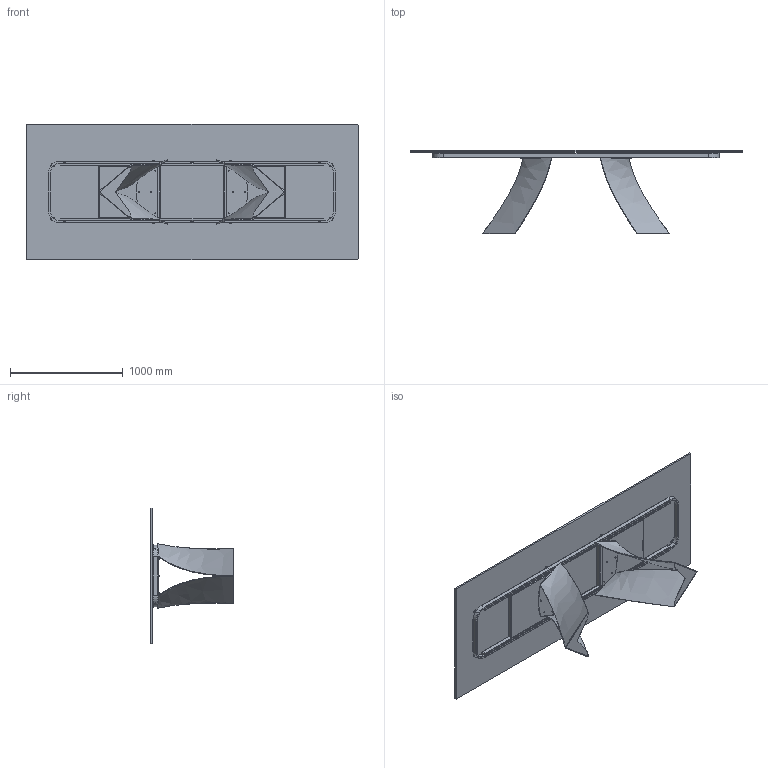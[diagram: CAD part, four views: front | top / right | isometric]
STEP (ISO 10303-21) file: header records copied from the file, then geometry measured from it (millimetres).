
FILE_DESCRIPTION (( 'STEP AP203' ), '1' );
FILE_NAME ('TW29G.STEP', '2024-08-07T12:36:25', ( '' ), ( '' ), 'SwSTEP 2.0', 'SolidWorks 2022', '' );
FILE_SCHEMA (( 'CONFIG_CONTROL_DESIGN' ));
Length unit declared in the file: millimetre
Products named in the file (10): PIEDINO PLASTICA PER TWIST; rondella M8_8X16; M8xXXmm_M8x20mm; 434070-00-PIEDINO TPV GOMMA NERO D. 30x8max18; TWS000000BAS-00-TWIST BASE GREZZA; TTAX03_02-00-VASSOIO IRRIGIDIMENTO TELAIO TWIST 300; TTAV10-00-TELAIO X TAVOLO TWIST 300 320cm; TTAX03_01-00-TELAIO UNIVERSALE X TWIST 300 320cm_Default<A macchina>; C2XCRXX-00-Piani Rettangolari Cristallo_29 2950x1200; TW29G
Assembly tree (43 placements, depth 3):
  TW29G
    C2XCRXX-00-Piani Rettangolari Cristallo_29 2950x1200
    TWS000000BAS-00-TWIST BASE GREZZA  x2
    TTAV10-00-TELAIO X TAVOLO TWIST 300 320cm
      TTAX03_01-00-TELAIO UNIVERSALE X TWIST 300 320cm_Default<A macchina>
      TTAX03_02-00-VASSOIO IRRIGIDIMENTO TELAIO TWIST 300  x2
    M8xXXmm_M8x20mm  x12
    rondella M8_8X16  x12
    434070-00-PIEDINO TPV GOMMA NERO D. 30x8max18  x8
    PIEDINO PLASTICA PER TWIST  x4
Bounding box: 2950 x 740.37 x 1200 mm (x, y, z)
Volume: 66684580.5 mm3; surface area: 13280877.2 mm2
Topology: 67 solids, 67 shells, 1270 faces, 2950 edges, 1806 vertices
Faces by surface type: plane 522, cylinder 342, torus 208, cone 132, bspline 66
Entity records: 22814 total; most frequent: CARTESIAN_POINT 8935, DIRECTION 2553, ORIENTED_EDGE 2426, EDGE_CURVE 1213, AXIS2_PLACEMENT_3D 958, VERTEX_POINT 787, VECTOR 637, LINE 637
